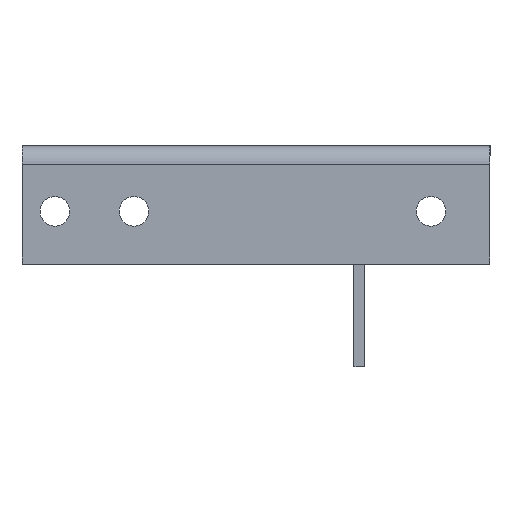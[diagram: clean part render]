
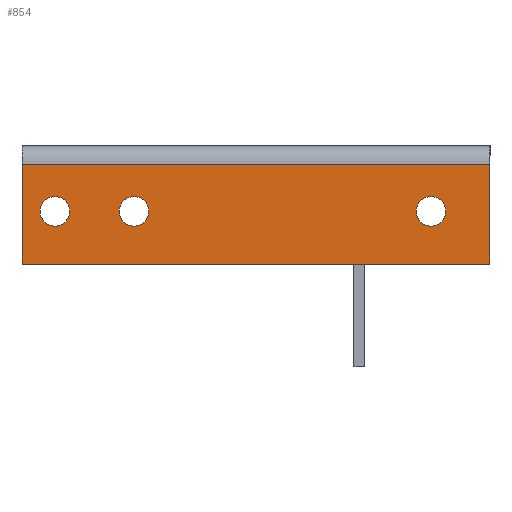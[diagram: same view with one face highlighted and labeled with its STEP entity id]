
A CAD part, left-side view. The second image highlights one B-rep face of the part: STEP entity #854.
In plain terms, the highlighted planar face has unit normal (-1, 0, 0).
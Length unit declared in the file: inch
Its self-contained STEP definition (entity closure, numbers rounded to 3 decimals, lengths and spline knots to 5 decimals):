
#300 = VERTEX_POINT ( 'NONE', #3199 ) ;
#351 = EDGE_CURVE ( 'NONE', #300, #352, #3081, .T. ) ;
#352 = VERTEX_POINT ( 'NONE', #3076 ) ;
#373 = VERTEX_POINT ( 'NONE', #449 ) ;
#392 = VERTEX_POINT ( 'NONE', #760 ) ;
#394 = EDGE_CURVE ( 'NONE', #392, #395, #758, .T. ) ;
#395 = VERTEX_POINT ( 'NONE', #749 ) ;
#398 = EDGE_CURVE ( 'NONE', #405, #373, #498, .T. ) ;
#405 = VERTEX_POINT ( 'NONE', #510 ) ;
#449 = CARTESIAN_POINT ( 'NONE',  ( 0., 3.376, -0.3875 ) ) ;
#487 = DIRECTION ( 'NONE',  ( 0., 0., -1. ) ) ;
#490 = DIRECTION ( 'NONE',  ( -1., 0., 0. ) ) ;
#497 = AXIS2_PLACEMENT_3D ( 'NONE', #508, #490, #515 ) ;
#498 = CIRCLE ( 'NONE', #497, 0.1405 ) ;
#508 = CARTESIAN_POINT ( 'NONE',  ( 0., 3.376, -0.528 ) ) ;
#510 = CARTESIAN_POINT ( 'NONE',  ( 0., 3.376, -0.6685 ) ) ;
#515 = DIRECTION ( 'NONE',  ( 0., 0., 1. ) ) ;
#529 = CARTESIAN_POINT ( 'NONE',  ( 0., 4.438, -1.028 ) ) ;
#530 = LINE ( 'NONE', #529, #610 ) ;
#610 = VECTOR ( 'NONE', #487, 39.37008 ) ;
#668 = CARTESIAN_POINT ( 'NONE',  ( 0., 0., -1.028 ) ) ;
#717 = CARTESIAN_POINT ( 'NONE',  ( 0., 4.438, -0.08 ) ) ;
#733 = VERTEX_POINT ( 'NONE', #717 ) ;
#740 = FACE_OUTER_BOUND ( 'NONE', #1011, .T. ) ;
#741 = DIRECTION ( 'NONE',  ( 0., 0., 1. ) ) ;
#742 = DIRECTION ( 'NONE',  ( -1., 0., 0. ) ) ;
#743 = CARTESIAN_POINT ( 'NONE',  ( 0., 4.438, -1.028 ) ) ;
#744 = PLANE ( 'NONE',  #747 ) ;
#745 = FACE_BOUND ( 'NONE', #895, .T. ) ;
#746 = FACE_BOUND ( 'NONE', #1012, .T. ) ;
#747 = AXIS2_PLACEMENT_3D ( 'NONE', #743, #742, #741 ) ;
#748 = FACE_BOUND ( 'NONE', #863, .T. ) ;
#749 = CARTESIAN_POINT ( 'NONE',  ( 0., 0.56, -0.3875 ) ) ;
#750 = DIRECTION ( 'NONE',  ( 0., 0., 1. ) ) ;
#751 = DIRECTION ( 'NONE',  ( -1., 0., 0. ) ) ;
#752 = CARTESIAN_POINT ( 'NONE',  ( 0., 0.56, -0.528 ) ) ;
#753 = AXIS2_PLACEMENT_3D ( 'NONE', #752, #751, #750 ) ;
#758 = CIRCLE ( 'NONE', #753, 0.1405 ) ;
#760 = CARTESIAN_POINT ( 'NONE',  ( 0., 0.56, -0.6685 ) ) ;
#768 = VECTOR ( 'NONE', #782, 39.37008 ) ;
#769 = CARTESIAN_POINT ( 'NONE',  ( 0., 0., -1.028 ) ) ;
#776 = CARTESIAN_POINT ( 'NONE',  ( 0., 4.438, -1.028 ) ) ;
#780 = LINE ( 'NONE', #769, #768 ) ;
#782 = DIRECTION ( 'NONE',  ( 0., 0., 1. ) ) ;
#817 = VERTEX_POINT ( 'NONE', #668 ) ;
#848 = VECTOR ( 'NONE', #886, 39.37008 ) ;
#853 = EDGE_CURVE ( 'NONE', #733, #860, #530, .T. ) ;
#854 = ADVANCED_FACE ( 'NONE', ( #748, #746, #745, #740 ), #744, .T. ) ;
#855 = ORIENTED_EDGE ( 'NONE', *, *, #856, .T. ) ;
#856 = EDGE_CURVE ( 'NONE', #817, #918, #780, .T. ) ;
#860 = VERTEX_POINT ( 'NONE', #776 ) ;
#863 = EDGE_LOOP ( 'NONE', ( #1013, #1010 ) ) ;
#886 = DIRECTION ( 'NONE',  ( 0., 1., 0. ) ) ;
#895 = EDGE_LOOP ( 'NONE', ( #995, #1038 ) ) ;
#903 = CARTESIAN_POINT ( 'NONE',  ( 0., 4.438, -0.08 ) ) ;
#912 = EDGE_CURVE ( 'NONE', #918, #733, #925, .T. ) ;
#918 = VERTEX_POINT ( 'NONE', #1258 ) ;
#925 = LINE ( 'NONE', #903, #848 ) ;
#926 = ORIENTED_EDGE ( 'NONE', *, *, #1030, .T. ) ;
#948 = EDGE_CURVE ( 'NONE', #395, #392, #1318, .T. ) ;
#954 = ORIENTED_EDGE ( 'NONE', *, *, #996, .F. ) ;
#987 = ORIENTED_EDGE ( 'NONE', *, *, #853, .T. ) ;
#994 = ORIENTED_EDGE ( 'NONE', *, *, #398, .F. ) ;
#995 = ORIENTED_EDGE ( 'NONE', *, *, #948, .F. ) ;
#996 = EDGE_CURVE ( 'NONE', #373, #405, #1407, .T. ) ;
#1003 = ORIENTED_EDGE ( 'NONE', *, *, #912, .T. ) ;
#1010 = ORIENTED_EDGE ( 'NONE', *, *, #351, .F. ) ;
#1011 = EDGE_LOOP ( 'NONE', ( #855, #1003, #987, #926 ) ) ;
#1012 = EDGE_LOOP ( 'NONE', ( #954, #994 ) ) ;
#1013 = ORIENTED_EDGE ( 'NONE', *, *, #1039, .F. ) ;
#1030 = EDGE_CURVE ( 'NONE', #860, #817, #1385, .T. ) ;
#1038 = ORIENTED_EDGE ( 'NONE', *, *, #394, .F. ) ;
#1039 = EDGE_CURVE ( 'NONE', #352, #300, #1376, .T. ) ;
#1258 = CARTESIAN_POINT ( 'NONE',  ( 0., 0., -0.08 ) ) ;
#1282 = DIRECTION ( 'NONE',  ( 0., 0., 1. ) ) ;
#1283 = DIRECTION ( 'NONE',  ( -1., 0., 0. ) ) ;
#1316 = CARTESIAN_POINT ( 'NONE',  ( 0., 0.56, -0.528 ) ) ;
#1317 = AXIS2_PLACEMENT_3D ( 'NONE', #1316, #1283, #1282 ) ;
#1318 = CIRCLE ( 'NONE', #1317, 0.1405 ) ;
#1372 = DIRECTION ( 'NONE',  ( 0., 0., 1. ) ) ;
#1373 = DIRECTION ( 'NONE',  ( -1., 0., 0. ) ) ;
#1374 = CARTESIAN_POINT ( 'NONE',  ( 0., 4.126, -0.528 ) ) ;
#1375 = AXIS2_PLACEMENT_3D ( 'NONE', #1374, #1373, #1372 ) ;
#1376 = CIRCLE ( 'NONE', #1375, 0.1405 ) ;
#1382 = DIRECTION ( 'NONE',  ( 0., -1., 0. ) ) ;
#1383 = VECTOR ( 'NONE', #1382, 39.37008 ) ;
#1384 = CARTESIAN_POINT ( 'NONE',  ( 0., 4.438, -1.028 ) ) ;
#1385 = LINE ( 'NONE', #1384, #1383 ) ;
#1397 = DIRECTION ( 'NONE',  ( -1., 0., 0. ) ) ;
#1403 = CARTESIAN_POINT ( 'NONE',  ( 0., 3.376, -0.528 ) ) ;
#1404 = AXIS2_PLACEMENT_3D ( 'NONE', #1403, #1397, #1426 ) ;
#1407 = CIRCLE ( 'NONE', #1404, 0.1405 ) ;
#1426 = DIRECTION ( 'NONE',  ( 0., 0., 1. ) ) ;
#3076 = CARTESIAN_POINT ( 'NONE',  ( 0., 4.126, -0.3875 ) ) ;
#3077 = DIRECTION ( 'NONE',  ( 0., 0., 1. ) ) ;
#3078 = DIRECTION ( 'NONE',  ( -1., 0., 0. ) ) ;
#3079 = CARTESIAN_POINT ( 'NONE',  ( 0., 4.126, -0.528 ) ) ;
#3080 = AXIS2_PLACEMENT_3D ( 'NONE', #3079, #3078, #3077 ) ;
#3081 = CIRCLE ( 'NONE', #3080, 0.1405 ) ;
#3199 = CARTESIAN_POINT ( 'NONE',  ( 0., 4.126, -0.6685 ) ) ;
